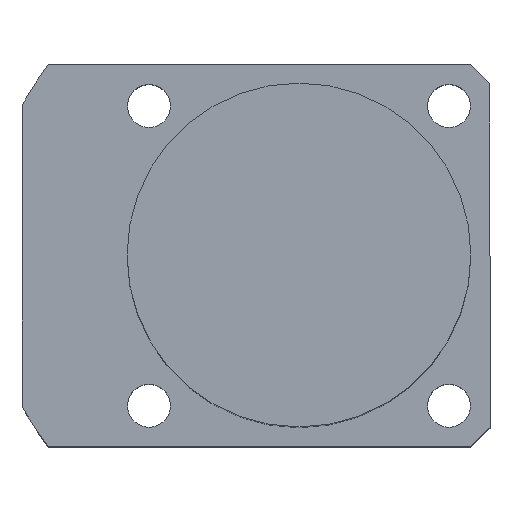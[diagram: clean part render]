
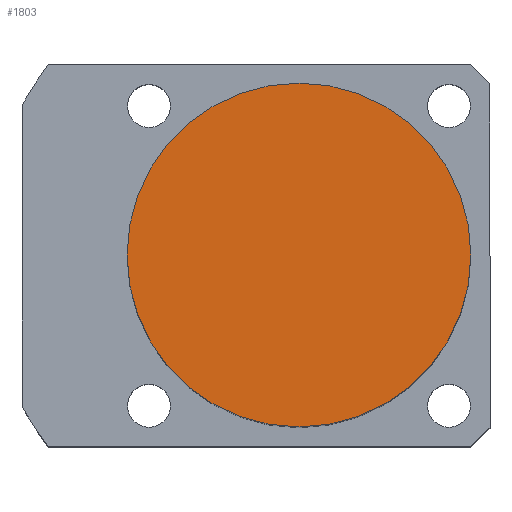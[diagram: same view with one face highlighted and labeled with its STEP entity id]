
A CAD part, top view. The second image highlights one B-rep face of the part: STEP entity #1803.
In plain terms, the highlighted planar face has unit normal (0, 0, 1).
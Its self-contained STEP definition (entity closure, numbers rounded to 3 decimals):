
#60 = CARTESIAN_POINT ( 'NONE',  ( 0., 0., 58.5 ) ) ;
#111 = CARTESIAN_POINT ( 'NONE',  ( 0., 0., 58.5 ) ) ;
#168 = FACE_OUTER_BOUND ( 'NONE', #225, .T. ) ;
#212 = DIRECTION ( 'NONE',  ( 0., 0., 1. ) ) ;
#225 = EDGE_LOOP ( 'NONE', ( #1018, #1843 ) ) ;
#310 = AXIS2_PLACEMENT_3D ( 'NONE', #1648, #728, #588 ) ;
#527 = DIRECTION ( 'NONE',  ( 0., 0., 1. ) ) ;
#557 = CIRCLE ( 'NONE', #310, 18. ) ;
#568 = EDGE_CURVE ( 'NONE', #1259, #1232, #557, .T. ) ;
#588 = DIRECTION ( 'NONE',  ( 1., 0., 0. ) ) ;
#728 = DIRECTION ( 'NONE',  ( 0., 0., 1. ) ) ;
#1018 = ORIENTED_EDGE ( 'NONE', *, *, #1901, .T. ) ;
#1086 = AXIS2_PLACEMENT_3D ( 'NONE', #111, #527, #1129 ) ;
#1129 = DIRECTION ( 'NONE',  ( 1., 0., 0. ) ) ;
#1220 = AXIS2_PLACEMENT_3D ( 'NONE', #60, #212, #1437 ) ;
#1232 = VERTEX_POINT ( 'NONE', #1347 ) ;
#1259 = VERTEX_POINT ( 'NONE', #1675 ) ;
#1347 = CARTESIAN_POINT ( 'NONE',  ( -18., 0., 58.5 ) ) ;
#1437 = DIRECTION ( 'NONE',  ( 1., 0., 0. ) ) ;
#1648 = CARTESIAN_POINT ( 'NONE',  ( 0., 0., 58.5 ) ) ;
#1661 = CIRCLE ( 'NONE', #1086, 18. ) ;
#1675 = CARTESIAN_POINT ( 'NONE',  ( 18., 0., 58.5 ) ) ;
#1803 = ADVANCED_FACE ( 'NONE', ( #168 ), #1852, .T. ) ;
#1843 = ORIENTED_EDGE ( 'NONE', *, *, #568, .T. ) ;
#1852 = PLANE ( 'NONE',  #1220 ) ;
#1901 = EDGE_CURVE ( 'NONE', #1232, #1259, #1661, .T. ) ;
